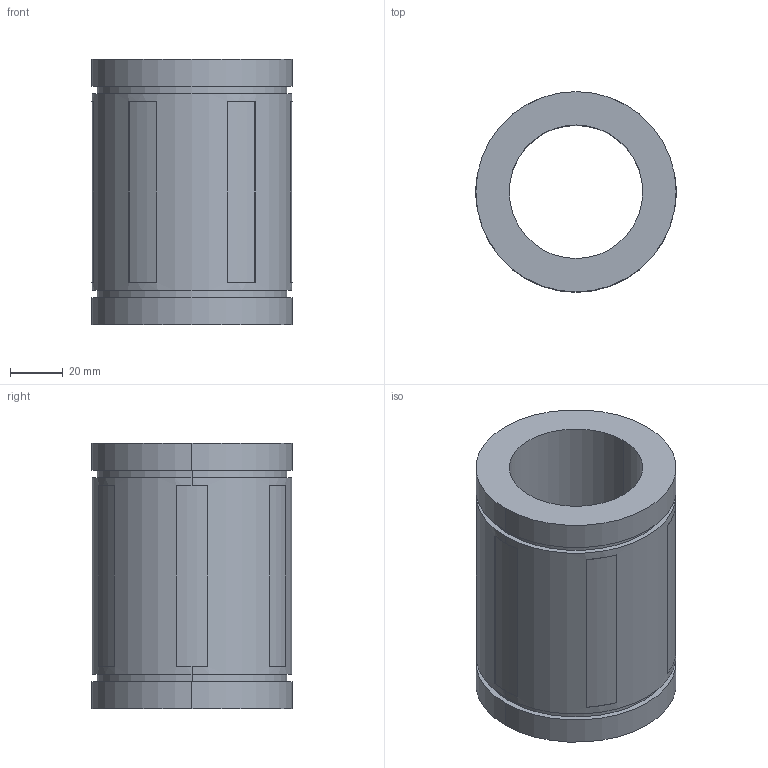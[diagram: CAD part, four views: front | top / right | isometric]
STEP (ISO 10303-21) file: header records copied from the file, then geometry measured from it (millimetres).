
FILE_DESCRIPTION((''),'2;1');
FILE_NAME('C:\Documents and Settings\ｿﾀﾀ蠑ｷ1\ｹﾙﾅﾁ ﾈｭｸ饅\ｺﾎﾇｰﾆﾄﾀﾏ\ﾁｦﾇｰ\LMBS__UU\LMBS32UU.stp','2005-06-15T14:00:13',('ｿﾀﾀ蠑ｷ1'),(''),'Autodesk Inventor 9','Autodesk Inventor 9','');
FILE_SCHEMA(('AUTOMOTIVE_DESIGN { 1 0 10303 214 1 1 1 1 }'));
Length unit declared in the file: millimetre
Products named in the file (1): LMBS__
Bounding box: 76.2 x 76.2 x 101 mm (x, y, z)
Volume: 252010 mm3; surface area: 47207.8 mm2
Topology: 1 solids, 1 shells, 48 faces, 114 edges, 76 vertices
Faces by surface type: plane 28, cylinder 16, bspline 4
Entity records: 1463 total; most frequent: CARTESIAN_POINT 279, DIRECTION 256, ORIENTED_EDGE 228, EDGE_CURVE 114, AXIS2_PLACEMENT_3D 97, VERTEX_POINT 76, VECTOR 62, LINE 62
